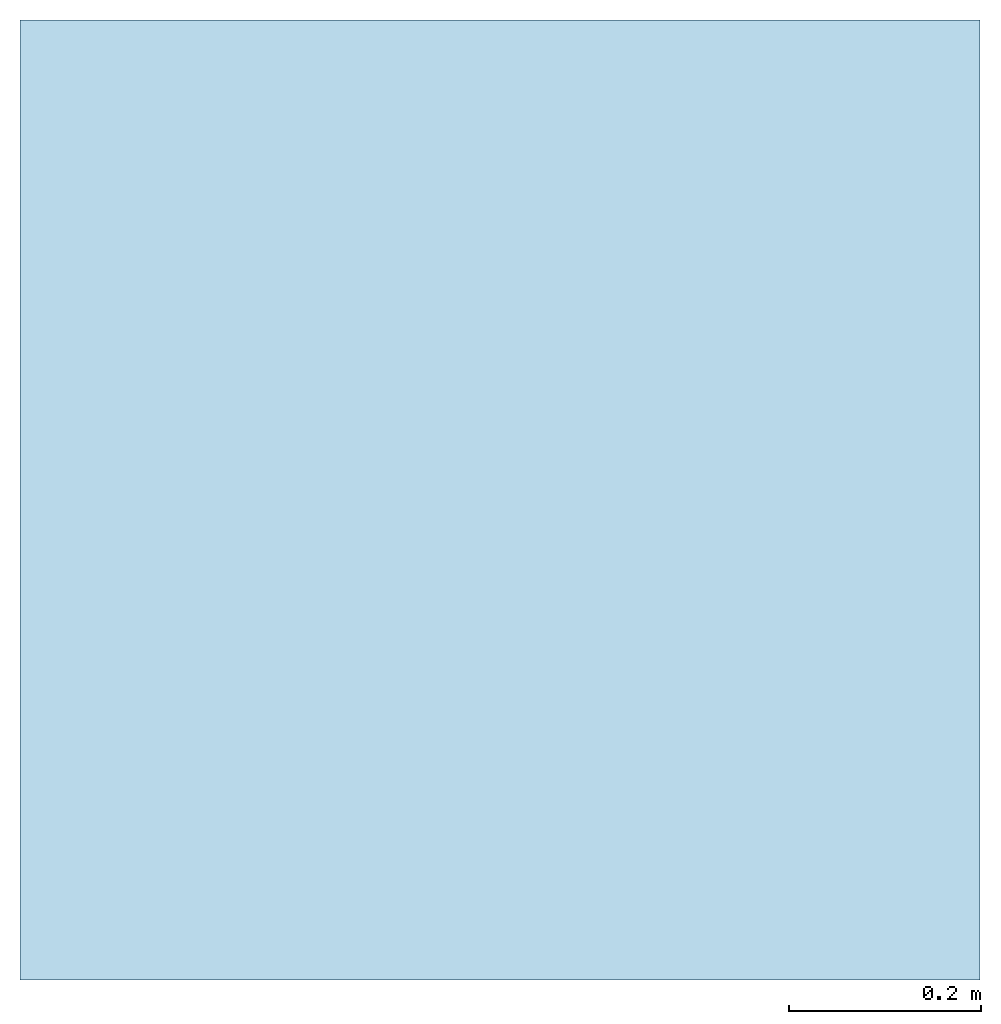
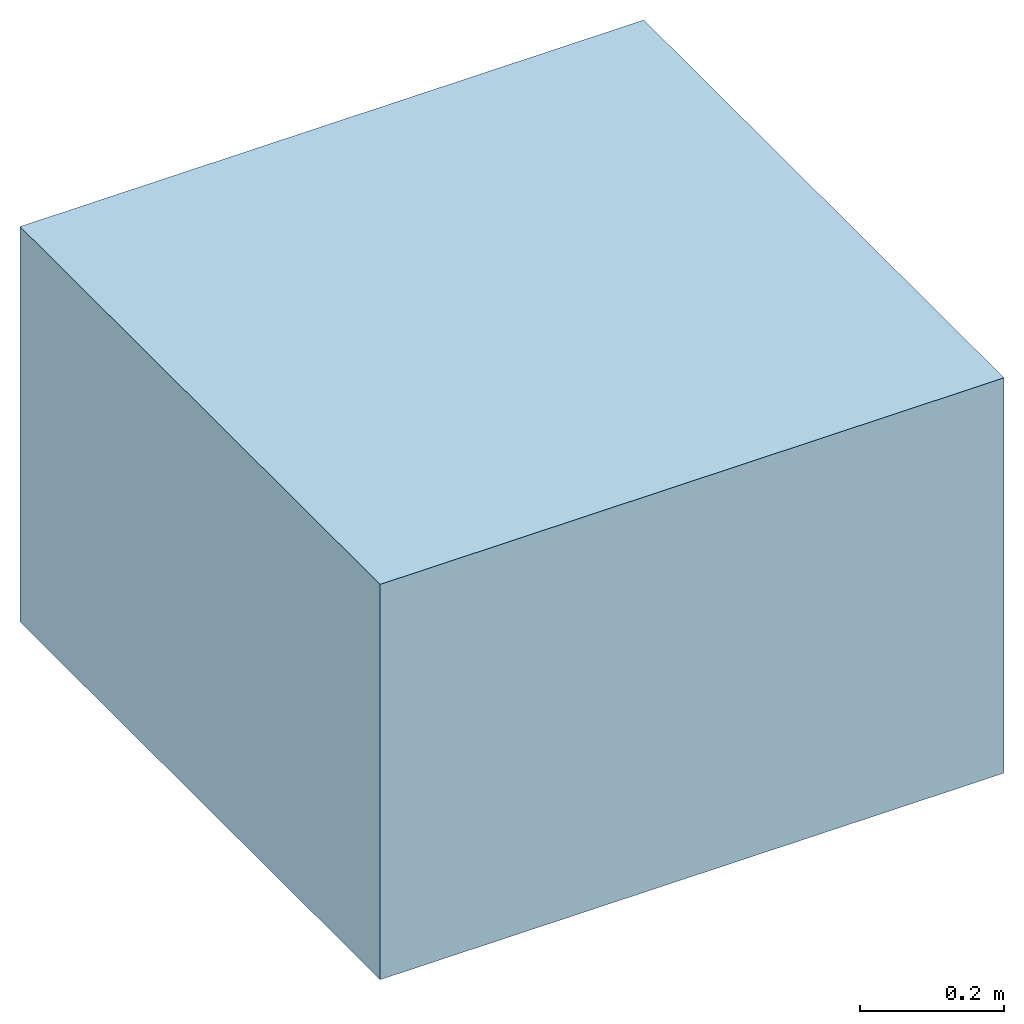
# One storey: 1 slab.
"""IFC4 building model written with IfcOpenShell, lengths in metres."""

import ifcopenshell
import ifcopenshell.guid

model = None  # the IFC model being written
_history = None  # IfcOwnerHistory: only IFC2X3 demands one
_inside = {}  # id of a spatial element -> (the spatial element, [elements in it])
_under = {}  # id of a project, library or spatial element -> (it, [spatial elements below it])
_declared = {}  # id of a project -> (the project, [libraries it declares])
_typed = {}  # id of a type object -> (the type object, [elements of that type])
_made_of = {}  # id of a material, layer set ... -> (it, [elements and type objects made of it])


def new_model(schema):
    """Start an empty IFC model of exactly this schema.

    Asked for "IFC4X3", IfcOpenShell would pick the latest addendum, in which some entities
    have other attributes; the version numbers below select the first issue.
    IFC2X3 requires an IfcOwnerHistory on every rooted entity: one is made here for all.
    """
    global model, _history
    if schema == "IFC4X3":
        model = ifcopenshell.file(schema_version=(4, 3, 0, 0))
    else:
        model = ifcopenshell.file(schema=schema)
    _inside.clear()
    _under.clear()
    _declared.clear()
    _typed.clear()
    _made_of.clear()
    _history = None
    if model.schema == "IFC2X3":
        org = make("IfcOrganization", Name="unknown")
        user = make(
            "IfcPersonAndOrganization",
            ThePerson=make("IfcPerson", FamilyName="unknown"),
            TheOrganization=org,
        )
        app = make(
            "IfcApplication",
            ApplicationDeveloper=org,
            Version="unknown",
            ApplicationFullName="unknown",
            ApplicationIdentifier="unknown",
        )
        _history = make(
            "IfcOwnerHistory",
            OwningUser=user,
            OwningApplication=app,
            ChangeAction="ADDED",
            CreationDate=0,
        )
    return model


def make(cls, **values):
    """One entity of the class cls with the attributes given. An attribute that is None is left unset."""
    return model.create_entity(
        cls, **{name: value for name, value in values.items() if value is not None}
    )


def entity(cls, *values):
    """Any entity or typed value of the class cls, its attributes in the order of the schema. None: left unset."""
    e = model.create_entity(cls)
    for i, value in enumerate(values):
        if value is not None:
            e[i] = value
    return e


def rooted(cls, **values):
    """An entity with a GlobalId (a new one), such as an element, a storey or a relation."""
    return make(cls, GlobalId=ifcopenshell.guid.new(), OwnerHistory=_history, **values)


def si_unit(unit_type, name, prefix=None):
    """IfcSIUnit, for example si_unit("LENGTHUNIT", "METRE", prefix="MILLI")."""
    return make("IfcSIUnit", UnitType=unit_type, Prefix=prefix, Name=name)


def converted_unit(unit_type, name, factor, base, dimensions=None, offset=None):
    """IfcConversionBasedUnit, such as the inch: factor (a typed value) times the base unit."""
    return make(
        "IfcConversionBasedUnit"
        if offset is None
        else "IfcConversionBasedUnitWithOffset",
        ConversionOffset=offset,
        Dimensions=None
        if dimensions is None
        else entity("IfcDimensionalExponents", *dimensions),
        UnitType=unit_type,
        Name=name,
        ConversionFactor=make(
            "IfcMeasureWithUnit", ValueComponent=factor, UnitComponent=base
        ),
    )


def assignment(units):
    """IfcUnitAssignment: the units of a project."""
    return None if units is None else make("IfcUnitAssignment", Units=units)


def point(xyz):
    """IfcCartesianPoint."""
    return None if xyz is None else make("IfcCartesianPoint", Coordinates=xyz)


def direction(xyz):
    """IfcDirection."""
    return None if xyz is None else make("IfcDirection", DirectionRatios=xyz)


def frame(location, z_axis=None, x_axis=None):
    """IfcAxis2Placement3D, a coordinate frame: its origin and axes. An axis left out is left unset."""
    return make(
        "IfcAxis2Placement3D",
        Location=point(location),
        Axis=direction(z_axis),
        RefDirection=direction(x_axis),
    )


def frame_2d(location, x_axis=None):
    """IfcAxis2Placement2D, a coordinate frame in the plane: its origin and x axis."""
    return make(
        "IfcAxis2Placement2D", Location=point(location), RefDirection=direction(x_axis)
    )


def origin():
    """The frame at (0, 0, 0) with its axes left unset."""
    return frame((0.0, 0.0, 0.0))


def place(relative_to, where):
    """IfcLocalPlacement: puts the frame where relative to a parent placement (None: the world)."""
    return make(
        "IfcLocalPlacement", PlacementRelTo=relative_to, RelativePlacement=where
    )


def context(
    kind, dimensions, precision=None, world=None, true_north=None, identifier=None
):
    """IfcGeometricRepresentationContext, for example the 3D "Model" context."""
    return make(
        "IfcGeometricRepresentationContext",
        ContextIdentifier=identifier,
        ContextType=kind,
        CoordinateSpaceDimension=dimensions,
        Precision=precision,
        WorldCoordinateSystem=world,
        TrueNorth=true_north,
    )


def subcontext(parent, identifier, kind, view, scale=None):
    """IfcGeometricRepresentationSubContext, for example "Body" below "Model"."""
    return make(
        "IfcGeometricRepresentationSubContext",
        ContextIdentifier=identifier,
        ContextType=kind,
        ParentContext=parent,
        TargetScale=scale,
        TargetView=view,
    )


def project(units=None, contexts=None):
    """IfcProject with its units and contexts."""
    return rooted(
        "IfcProject",
        Name="project",
        RepresentationContexts=contexts,
        UnitsInContext=assignment(units),
    )


def spatial(cls, under=None, at=None, **own):
    """A site, building, storey or space (cls), placed at a placement, below another one or the project."""
    s = rooted(cls, ObjectPlacement=at, **own)
    if under is not None:
        _under.setdefault(under.id(), (under, []))[1].append(s)
    return s


def profile(cls, at=None, kind="AREA", **sizes):
    """A parametric profile (cls). Its sizes go by their IFC names, for example OverallWidth=200.0."""
    return make(cls, ProfileType=kind, Position=at, **sizes)


def rectangle(**sizes):
    """IfcRectangleProfileDef."""
    return profile("IfcRectangleProfileDef", **sizes)


def extrude(swept, where, along, depth):
    """IfcExtrudedAreaSolid: the profile swept, set in the frame where, extruded along a direction by depth."""
    return make(
        "IfcExtrudedAreaSolid",
        SweptArea=swept,
        Position=where,
        ExtrudedDirection=direction(along),
        Depth=depth,
    )


def shape(context_of_items, identifier, shape_type, items):
    """IfcShapeRepresentation: the items that make up one representation, for example the "Body"."""
    return make(
        "IfcShapeRepresentation",
        ContextOfItems=context_of_items,
        RepresentationIdentifier=identifier,
        RepresentationType=shape_type,
        Items=items,
    )


def material(Name=None, Category=None):
    """IfcMaterial."""
    return make("IfcMaterial", Name=Name, Category=Category)


def made_of(thing, what):
    """Note that an element or type object is made of a material, layer set ...; save() writes the relation."""
    if what is not None:
        _made_of.setdefault(what.id(), (what, []))[1].append(thing)
    return thing


def type_object(cls, material=None, **own):
    """A type object (cls), such as IfcWallType, which elements share."""
    return made_of(rooted(cls, **own), material)


def element(
    cls,
    number,
    at=None,
    inside=None,
    cuts=None,
    type_object=None,
    material=None,
    context=None,
    identifier="Body",
    shape_type=None,
    held_by="IfcProductDefinitionShape",
    body=None,
    shapes=None,
    **own,
):
    """One element of the class cls, such as IfcWall. Its Tag is "e" and its number.

    at: its placement. inside: the storey or other place that contains it. cuts: it is an
    opening in that element (IfcRelVoidsElement). A single representation is given by context,
    identifier, shape_type and body (its items); several are given by shapes. held_by: the class
    of the entity that holds the representations. save() writes the other relations.
    """
    e = rooted(cls, Tag="e%d" % number, ObjectPlacement=at, **own)
    if body is not None:
        shapes = [shape(context, identifier, shape_type, body)]
    if shapes is not None:
        e.Representation = make(held_by, Representations=shapes)
    if inside is not None:
        _inside.setdefault(inside.id(), (inside, []))[1].append(e)
    if cuts is not None:
        rooted(
            "IfcRelVoidsElement", RelatingBuildingElement=cuts, RelatedOpeningElement=e
        )
    if type_object is not None:
        _typed.setdefault(type_object.id(), (type_object, []))[1].append(e)
    return made_of(e, material)


def aggregate(whole, parts):
    """IfcRelAggregates: a whole, such as a stair, and the parts it consists of."""
    return rooted("IfcRelAggregates", RelatingObject=whole, RelatedObjects=parts)


def save(model, path):
    """Write the relations noted so far, then the file.

    IfcRelAggregates (storeys below a building ...), IfcRelContainedInSpatialStructure (elements
    in a storey), IfcRelDefinesByType, IfcRelAssociatesMaterial and IfcRelDeclares: one each for
    every whole, place, type object, material and project.
    """
    for whole, parts in _under.values():
        aggregate(whole, parts)
    for where, things in _inside.values():
        rooted(
            "IfcRelContainedInSpatialStructure",
            RelatedElements=things,
            RelatingStructure=where,
        )
    for kind, things in _typed.values():
        rooted("IfcRelDefinesByType", RelatedObjects=things, RelatingType=kind)
    for what, things in _made_of.values():
        rooted("IfcRelAssociatesMaterial", RelatedObjects=things, RelatingMaterial=what)
    for by, libraries in _declared.values():
        rooted("IfcRelDeclares", RelatingContext=by, RelatedDefinitions=libraries)
    model.write(path)


model = new_model("IFC4")

# Units and contexts
model_context = context("Model", 3, precision=1e-05, world=origin(), true_north=direction((6.123031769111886e-17, 1.0)))
body_context = subcontext(model_context, "Body", "Model", "MODEL_VIEW")
ifc_project = project(units=[si_unit("LENGTHUNIT", "METRE"), converted_unit("PLANEANGLEUNIT", "DEGREE", entity("IfcPlaneAngleMeasure", 0.017453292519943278), si_unit("PLANEANGLEUNIT", "RADIAN"), dimensions=[0, 0, 0, 0, 0, 0, 0]), si_unit("AREAUNIT", "SQUARE_METRE")], contexts=[model_context])

# Site, building, storey
site_placement = place(None, origin())
site = spatial("IfcSite", under=ifc_project, at=site_placement, Name="Default", CompositionType="ELEMENT")
building_placement = place(site_placement, origin())
building = spatial("IfcBuilding", under=site, at=building_placement, CompositionType="ELEMENT")
storey_placement = place(building_placement, origin())
storey = spatial("IfcBuildingStorey", under=building, at=storey_placement, Name="Ebene 0", CompositionType="ELEMENT", Elevation=0.0)

# Slab
ifc_material = material(Name="DB_Magerbeton", Category="DB_Beton")
slab_type = type_object("IfcSlabType", Name="DB_BSK_96C_Fundament:DB_BSK_96C_Fundament", PredefinedType="BASESLAB", material=ifc_material)
slab_placement = place(storey_placement, origin())
element("IfcSlab", 1, at=slab_placement, inside=storey, type_object=slab_type, Name="DB_BSK_96C_Fundament:DB_BSK_96C_Fundament", ObjectType="DB_BSK_96C_Fundament:DB_BSK_96C_Fundament", PredefinedType="BASESLAB", context=body_context, shape_type="SweptSolid", body=[
    extrude(rectangle(XDim=0.9999999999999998, YDim=0.9999999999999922, at=frame_2d((-9.43689570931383e-16, -4.163336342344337e-16), x_axis=(1.0, 0.0))), frame((0.45438990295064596, 0.4999999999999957, -1.9249999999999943), z_axis=(0.0, 0.0, 1.0), x_axis=(-1.0, 0.0, 0.0)), (0.0, 0.0, 1.0), 0.11999999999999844),
    extrude(rectangle(XDim=1.0, YDim=0.9999999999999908, at=frame_2d((0.0, -8.326672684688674e-17), x_axis=(1.0, 0.0))), frame((0.4543899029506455, 0.4999999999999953, -1.8049999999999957), z_axis=(0.0, 0.0, 1.0), x_axis=(-1.0, 0.0, 0.0)), (0.0, 0.0, 1.0), 0.5500000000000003),
])

save(model, "model.ifc")
